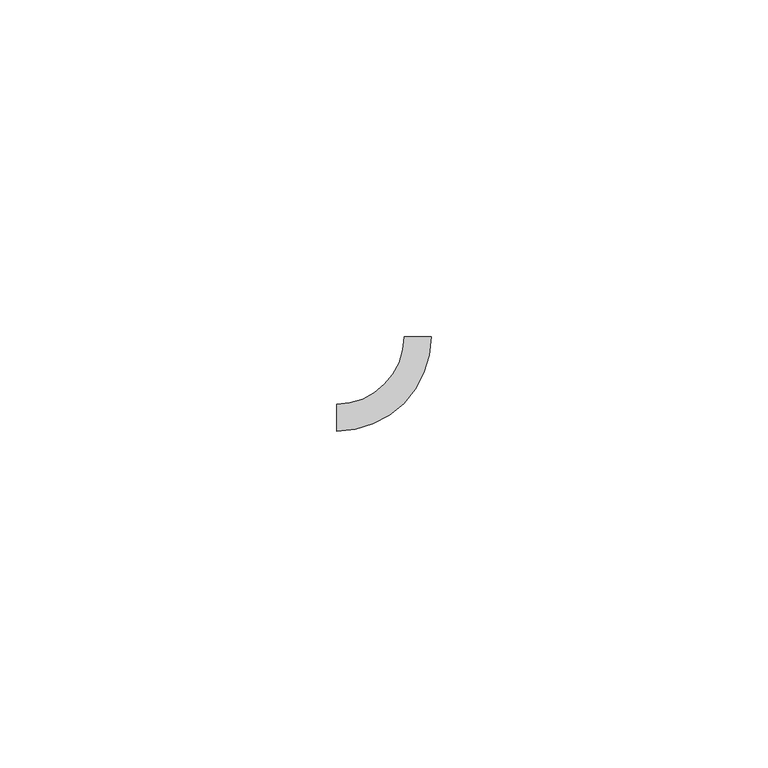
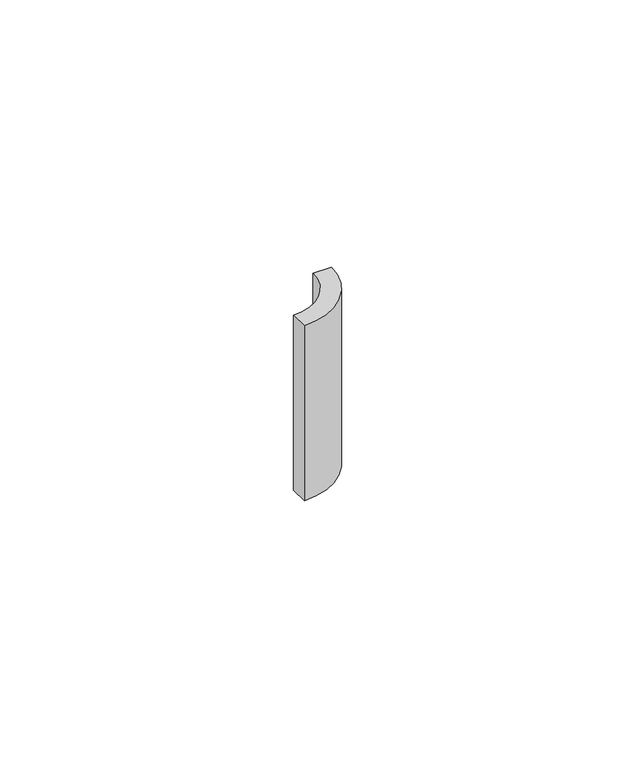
"""IFC4 building model written with IfcOpenShell, lengths in millimetres: duct fitting geometry, КНС_Поворот_Полоса_Неспецифицируемое_DKC : Изгиб полосы."""

from ifc_helpers import new_model, si_unit, point, frame, frame_2d, origin, place, context, project, spatial, polyline, circle_curve, trimmed, segment, composite_curve, outline, extrude, source, transform, mapped, element, save


def duct_fitting_e5d23d8e(model_context):
    return source(origin(), model_context, "Body", "SweptSolid", [
        extrude(outline(composite_curve([segment(trimmed(circle_curve(frame_2d((-12.0, 12.0)), 14.0), [point((2.0, 12.0))], [point((-12.0, -2.0))], False, "CARTESIAN"), True, "CONTINUOUS"), segment(polyline([(-12.0, -2.0), (-12.0, 2.0)]), True, "CONTINUOUS"), segment(trimmed(circle_curve(frame_2d((-12.0, 12.0)), 10.0), [point((-12.0, 2.0))], [point((-2.0, 12.0))], True, "CARTESIAN"), True, "CONTINUOUS"), segment(polyline([(-2.0, 12.0), (2.0, 12.0)]), True, "CONTINUOUS")], self_intersect=False)), frame((0.0, 0.0, -20.0), z_axis=(0.0, 0.0, 1.0), x_axis=(1.0, 0.0, 0.0)), (0.0, 0.0, 1.0), 40.0),
    ])


if __name__ == "__main__":
    model = new_model("IFC4")
    model_context = context("Model", 3, world=origin())
    ifc_project = project(units=[si_unit("LENGTHUNIT", "METRE", prefix="MILLI")], contexts=[model_context])
    site = spatial("IfcSite", under=ifc_project)
    building = spatial("IfcBuilding", under=site)
    placement = place(None, origin())
    duct_fitting_shape = duct_fitting_e5d23d8e(model_context)
    element("IfcDuctFitting", 1, ObjectType="КНС_Поворот_Полоса_Неспецифицируемое_DKC : Изгиб полосы", at=placement, inside=building, context=model_context, shape_type="MappedRepresentation", body=[
        mapped(duct_fitting_shape, transform((0.0, 0.0, 0.0), x_axis=(1.0, 0.0, 0.0), y_axis=(0.0, 1.0, 0.0), z_axis=(0.0, 0.0, 1.0))),
    ])
    save(model, "model.ifc")
